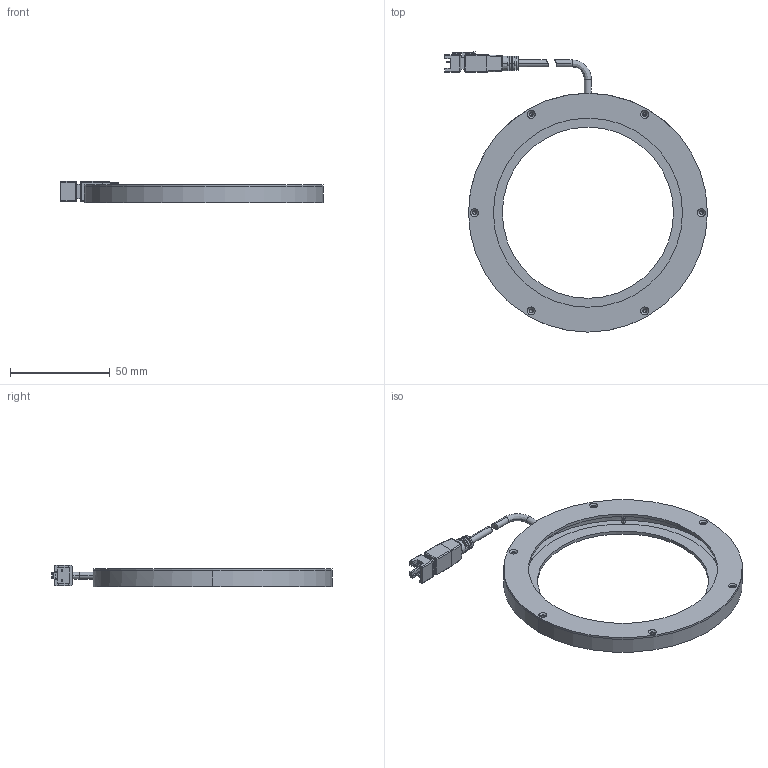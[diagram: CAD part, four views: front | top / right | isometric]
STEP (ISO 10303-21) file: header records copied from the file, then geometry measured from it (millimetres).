
FILE_DESCRIPTION (( 'STEP AP203' ), '1' );
FILE_NAME ('120嫖埭釱.STEP', '2026-03-13T09:39:48', ( '' ), ( '' ), 'SwSTEP 2.0', 'SolidWorks 2022', '' );
FILE_SCHEMA (( 'CONFIG_CONTROL_DESIGN' ));
Length unit declared in the file: millimetre
Products named in the file (5): CK-HRL1200-A02; 1200灯珠-00; 光源线; CK-HRL1200-A01; 120光源座
Assembly tree (4 placements, depth 2):
  120光源座
    CK-HRL1200-A01
    CK-HRL1200-A02
    光源线
    1200灯珠-00
Bounding box: 132 x 140.81 x 10.56 mm (x, y, z)
Volume: 29954.4 mm3; surface area: 34337.8 mm2
Topology: 6 solids, 6 shells, 316 faces, 783 edges, 470 vertices
Faces by surface type: plane 131, cylinder 115, cone 34, bspline 20, torus 16
Entity records: 10176 total; most frequent: CARTESIAN_POINT 2298, DIRECTION 1571, ORIENTED_EDGE 1502, EDGE_CURVE 751, AXIS2_PLACEMENT_3D 577, VERTEX_POINT 470, LINE 417, VECTOR 417
